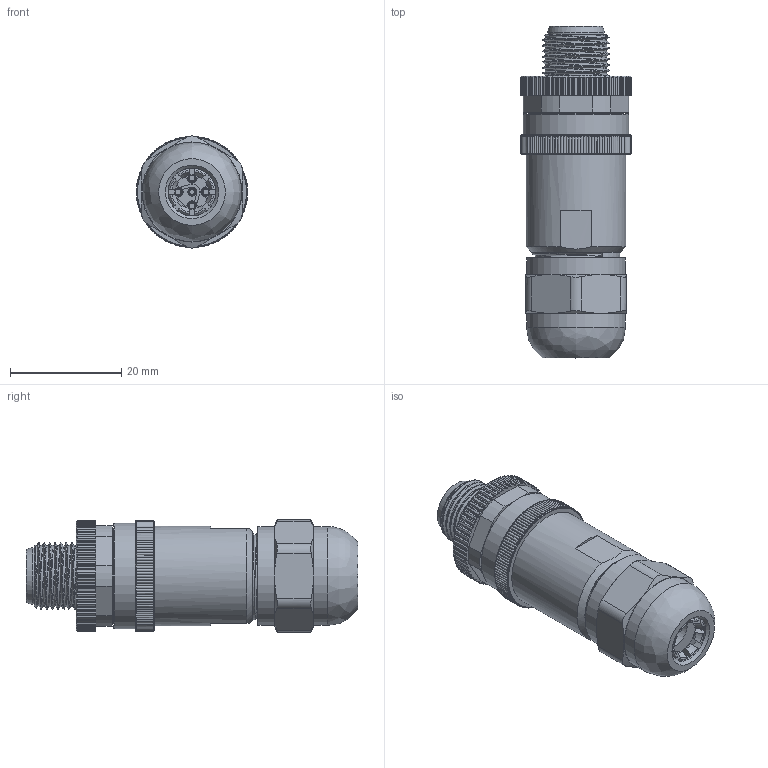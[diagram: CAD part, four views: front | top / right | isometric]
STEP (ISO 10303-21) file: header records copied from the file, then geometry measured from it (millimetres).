
FILE_DESCRIPTION(/* description */ (''),/* implementation_level */ '2;1');
FILE_NAME(/* name */ 'M12B-5MS.P-PG7_stp.stp',/* time_stamp */ '2024-09-04T09:13:41+08:00',/* author */ (''),/* organization */ (''),/* preprocessor_version */ 'ST-DEVELOPER v16.7',/* originating_system */ 'SIEMENS PLM Software NX 12.0',/* authorisation */ '');
FILE_SCHEMA (('AP203_CONFIGURATION_CONTROLLED_3D_DESIGN_OF_MECHANICAL_PARTS_AND_ASSEMBLIES_MIM_LF { 1 0 10303 403 2 1 2}'));
Products named in the file (1): lyj0B5CE8DD9j4i
Bounding box: 20 x 59.7 x 20.16 mm (x, y, z)
Surface area: 12930 mm2
Topology: 12 solids, 13 shells, 1315 faces, 3136 edges, 1887 vertices
Faces by surface type: cylinder 535, cone 360, plane 359, extrusion 25, torus 17, bspline 14, sphere 5
Full cylindrical faces by diameter (mm): 1 x15, 1.2 x10, 1.4 x5, 1.5 x15, 2 x4, 6.2 x1, 8.3 x1, 8.5 x1, 8.6 x2, 9.4 x1, 9.5 x1, 9.7 x1, 10 x1, 10.2 x1, 10.8 x1, 11.3 x2, 11.6 x1, 12.1 x1, 12.7 x1, 13.2 x3, 13.4 x1, 13.8 x1, 13.9 x1, 14.4 x1, 14.8 x12, 15.8 x4, 16.2 x1, 16.4 x1, 16.7 x1, 16.8 x1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
Entity records: 53634 total; most frequent: CARTESIAN_POINT 25058, DIRECTION 5979, ORIENTED_EDGE 5770, EDGE_CURVE 2885, AXIS2_PLACEMENT_3D 2436, VERTEX_POINT 1777, EDGE_LOOP 1498, ADVANCED_FACE 1294
